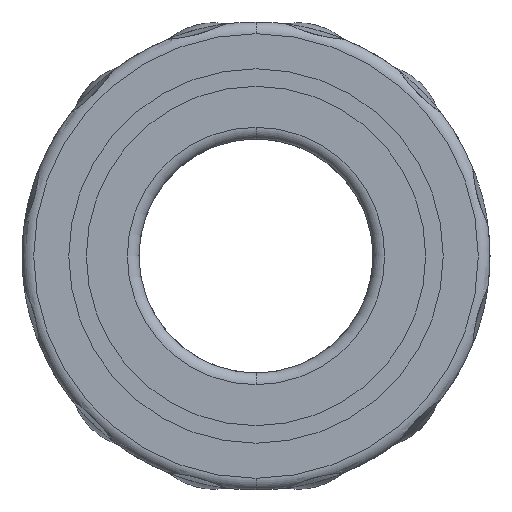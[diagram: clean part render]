
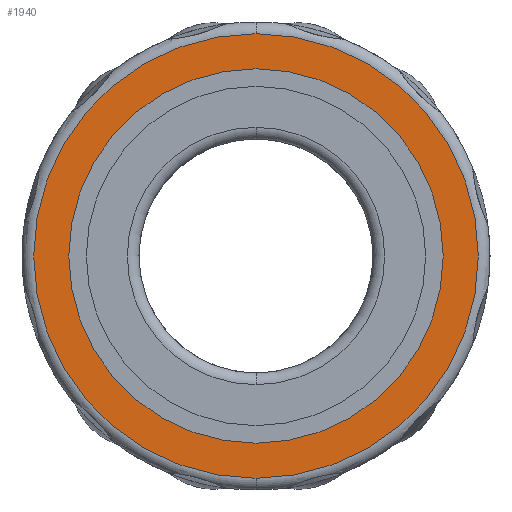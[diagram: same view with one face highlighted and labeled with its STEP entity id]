
A CAD part, front view. The second image highlights one B-rep face of the part: STEP entity #1940.
In plain terms, the highlighted planar face has unit normal (0, -1, 0).
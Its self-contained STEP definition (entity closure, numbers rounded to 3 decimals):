
#37 = DIRECTION ( 'NONE',  ( 0., -1., 0. ) ) ;
#68 = FACE_BOUND ( 'NONE', #330, .T. ) ;
#303 = CARTESIAN_POINT ( 'NONE',  ( 7970.949, 1369.934, 8. ) ) ;
#330 = EDGE_LOOP ( 'NONE', ( #1028, #5981 ) ) ;
#556 = EDGE_LOOP ( 'NONE', ( #1242, #6033 ) ) ;
#1028 = ORIENTED_EDGE ( 'NONE', *, *, #1996, .F. ) ;
#1242 = ORIENTED_EDGE ( 'NONE', *, *, #2242, .T. ) ;
#1283 = CIRCLE ( 'NONE', #6061, 8. ) ;
#1383 = DIRECTION ( 'NONE',  ( 0., 0., -1. ) ) ;
#1442 = CARTESIAN_POINT ( 'NONE',  ( 0., 1369.934, 0. ) ) ;
#1522 = DIRECTION ( 'NONE',  ( 0., -1., 0. ) ) ;
#1553 = DIRECTION ( 'NONE',  ( 0., 0., -1. ) ) ;
#1627 = CARTESIAN_POINT ( 'NONE',  ( 7970.949, 1369.934, 0. ) ) ;
#1940 = ADVANCED_FACE ( 'NONE', ( #1973, #68 ), #4831, .T. ) ;
#1964 = CARTESIAN_POINT ( 'NONE',  ( 7970.949, 1369.934, 0. ) ) ;
#1973 = FACE_OUTER_BOUND ( 'NONE', #556, .T. ) ;
#1996 = EDGE_CURVE ( 'NONE', #2950, #3956, #4060, .T. ) ;
#2206 = AXIS2_PLACEMENT_3D ( 'NONE', #1627, #37, #1553 ) ;
#2242 = EDGE_CURVE ( 'NONE', #5233, #4871, #5961, .T. ) ;
#2737 = CIRCLE ( 'NONE', #5959, 9.5 ) ;
#2826 = CARTESIAN_POINT ( 'NONE',  ( 7970.949, 1369.934, 0. ) ) ;
#2950 = VERTEX_POINT ( 'NONE', #5486 ) ;
#2972 = DIRECTION ( 'NONE',  ( 0., 0., -1. ) ) ;
#3480 = DIRECTION ( 'NONE',  ( 0., 0., -1. ) ) ;
#3828 = DIRECTION ( 'NONE',  ( 0., 0., -1. ) ) ;
#3956 = VERTEX_POINT ( 'NONE', #303 ) ;
#4039 = EDGE_CURVE ( 'NONE', #4871, #5233, #2737, .T. ) ;
#4060 = CIRCLE ( 'NONE', #4120, 8. ) ;
#4120 = AXIS2_PLACEMENT_3D ( 'NONE', #1964, #1522, #3480 ) ;
#4193 = EDGE_CURVE ( 'NONE', #3956, #2950, #1283, .T. ) ;
#4534 = DIRECTION ( 'NONE',  ( 0., -1., 0. ) ) ;
#4831 = PLANE ( 'NONE',  #5000 ) ;
#4871 = VERTEX_POINT ( 'NONE', #6031 ) ;
#5000 = AXIS2_PLACEMENT_3D ( 'NONE', #1442, #5924, #3828 ) ;
#5061 = CARTESIAN_POINT ( 'NONE',  ( 7970.949, 1369.934, 0. ) ) ;
#5233 = VERTEX_POINT ( 'NONE', #5699 ) ;
#5287 = DIRECTION ( 'NONE',  ( 0., -1., 0. ) ) ;
#5486 = CARTESIAN_POINT ( 'NONE',  ( 7970.949, 1369.934, -8. ) ) ;
#5699 = CARTESIAN_POINT ( 'NONE',  ( 7970.949, 1369.934, -9.5 ) ) ;
#5924 = DIRECTION ( 'NONE',  ( 0., -1., 0. ) ) ;
#5959 = AXIS2_PLACEMENT_3D ( 'NONE', #2826, #5287, #1383 ) ;
#5961 = CIRCLE ( 'NONE', #2206, 9.5 ) ;
#5981 = ORIENTED_EDGE ( 'NONE', *, *, #4193, .F. ) ;
#6031 = CARTESIAN_POINT ( 'NONE',  ( 7970.949, 1369.934, 9.5 ) ) ;
#6033 = ORIENTED_EDGE ( 'NONE', *, *, #4039, .T. ) ;
#6061 = AXIS2_PLACEMENT_3D ( 'NONE', #5061, #4534, #2972 ) ;
